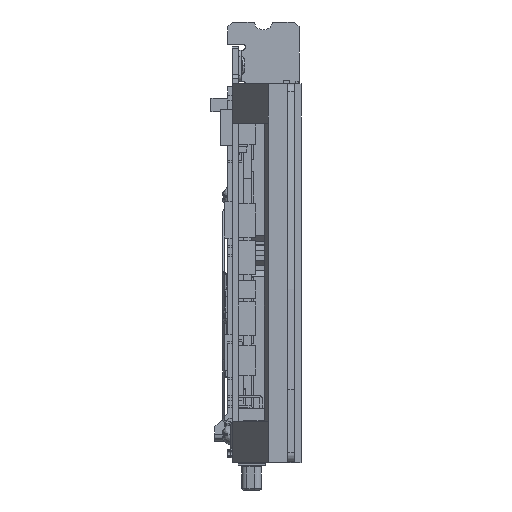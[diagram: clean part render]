
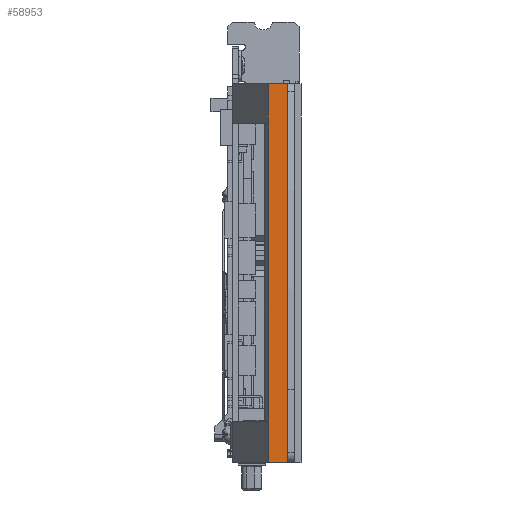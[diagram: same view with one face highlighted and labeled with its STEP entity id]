
A CAD part, front view. The second image highlights one B-rep face of the part: STEP entity #58953.
In plain terms, the highlighted planar face has unit normal (0, -1, 0).
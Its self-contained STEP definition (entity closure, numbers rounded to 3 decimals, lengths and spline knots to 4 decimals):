
#4140=DIRECTION('',(1.,0.,0.));
#4141=VECTOR('',#4140,0.198);
#4142=CARTESIAN_POINT('',(0.364,-12.579,-0.185));
#4143=LINE('',#4142,#4141);
#4233=DIRECTION('',(1.,0.,0.));
#4234=VECTOR('',#4233,0.198);
#4235=CARTESIAN_POINT('',(0.364,-12.579,-4.01));
#4236=LINE('',#4235,#4234);
#4309=DIRECTION('',(0.,0.,1.));
#4310=VECTOR('',#4309,3.825);
#4311=CARTESIAN_POINT('',(0.364,-12.579,-4.01));
#4312=LINE('',#4311,#4310);
#4328=DIRECTION('',(0.,0.,1.));
#4329=VECTOR('',#4328,3.825);
#4330=CARTESIAN_POINT('',(0.562,-12.579,-4.01));
#4331=LINE('',#4330,#4329);
#55995=CARTESIAN_POINT('',(0.364,-12.579,-4.01));
#55996=VERTEX_POINT('',#55995);
#55997=CARTESIAN_POINT('',(0.562,-12.579,-4.01));
#55998=VERTEX_POINT('',#55997);
#56015=CARTESIAN_POINT('',(0.364,-12.579,-0.185));
#56016=VERTEX_POINT('',#56015);
#56017=CARTESIAN_POINT('',(0.562,-12.579,-0.185));
#56018=VERTEX_POINT('',#56017);
#58941=CARTESIAN_POINT('',(0.364,-12.579,-4.01));
#58942=DIRECTION('',(0.,-1.,0.));
#58943=DIRECTION('',(1.,0.,0.));
#58944=AXIS2_PLACEMENT_3D('',#58941,#58942,#58943);
#58945=PLANE('',#58944);
#58946=ORIENTED_EDGE('',*,*,#58874,.F.);
#58947=ORIENTED_EDGE('',*,*,#58919,.T.);
#58948=ORIENTED_EDGE('',*,*,#58668,.T.);
#58950=ORIENTED_EDGE('',*,*,#58949,.F.);
#58951=EDGE_LOOP('',(#58946,#58947,#58948,#58950));
#58952=FACE_OUTER_BOUND('',#58951,.F.);
#58953=ADVANCED_FACE('',(#58952),#58945,.T.);
#58668=EDGE_CURVE('',#56016,#56018,#4143,.T.);
#58874=EDGE_CURVE('',#55996,#55998,#4236,.T.);
#58919=EDGE_CURVE('',#55996,#56016,#4312,.T.);
#58949=EDGE_CURVE('',#55998,#56018,#4331,.T.);
